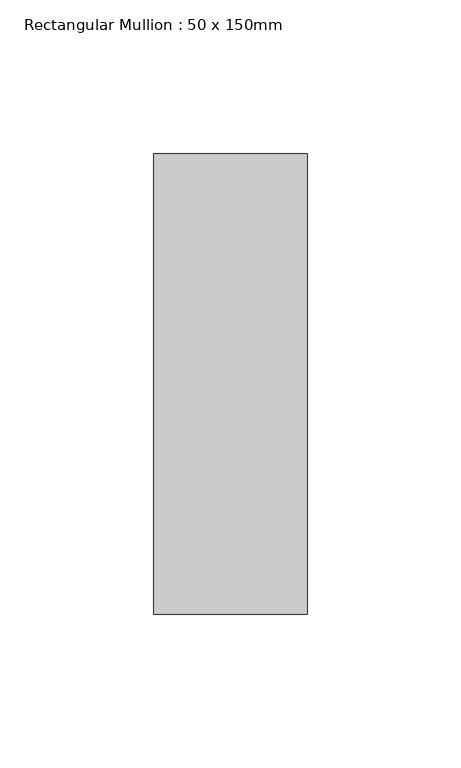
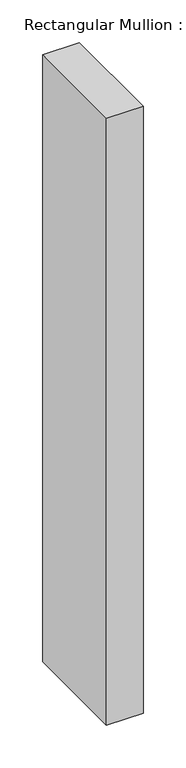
"""IFC4 building model written with IfcOpenShell, lengths in millimetres: member geometry, Rectangular Mullion : 50 x 150mm."""

from ifc_helpers import new_model, si_unit, frame, origin, place, context, project, spatial, polyline, outline, extrude, source, transform, mapped, element, save


def rectangular_mullion_50_x_150mm_c57c7bcc(model_context):
    return source(origin(), model_context, "Body", "SweptSolid", [
        extrude(outline(polyline([(0.0, 75.0), (0.0, -75.0), (-50.0, -75.0), (-50.0, 75.0), (0.0, 75.0)])), frame((0.0, 0.0, -870.0), z_axis=(0.0, 0.0, 1.0), x_axis=(1.0, 0.0, 0.0)), (0.0, 0.0, 1.0), 870.0),
    ])


if __name__ == "__main__":
    model = new_model("IFC4")
    model_context = context("Model", 3, world=origin())
    ifc_project = project(units=[si_unit("LENGTHUNIT", "METRE", prefix="MILLI")], contexts=[model_context])
    site = spatial("IfcSite", under=ifc_project)
    building = spatial("IfcBuilding", under=site)
    placement = place(None, origin())
    rectangular_mullion_50_x_150mm_shape = rectangular_mullion_50_x_150mm_c57c7bcc(model_context)
    element("IfcMember", 1, ObjectType="Rectangular Mullion : 50 x 150mm", at=placement, inside=building, context=model_context, shape_type="MappedRepresentation", body=[
        mapped(rectangular_mullion_50_x_150mm_shape, transform((0.0, 0.0, 0.0), x_axis=(1.0, 0.0, 0.0), y_axis=(0.0, 1.0, 0.0), z_axis=(0.0, 0.0, 1.0))),
    ])
    save(model, "model.ifc")
